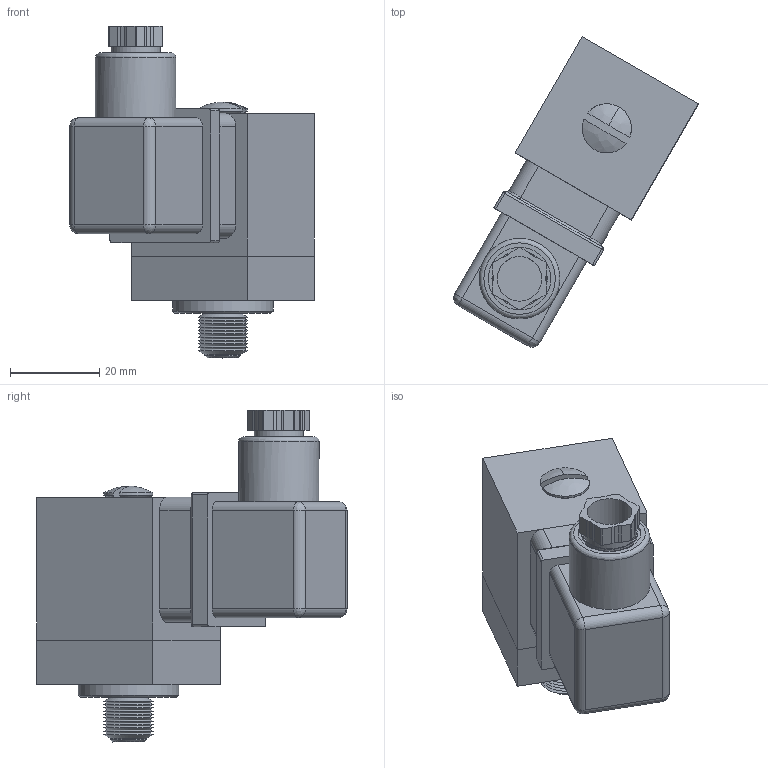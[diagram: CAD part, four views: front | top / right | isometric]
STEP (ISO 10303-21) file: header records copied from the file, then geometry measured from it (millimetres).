
FILE_DESCRIPTION(('STEP AP203'),'2;1');
FILE_NAME('OMTI-H.stp','2009-03-24T10:47:58',(''),(''),'2008.1.107','THINKDESIGN','');
FILE_SCHEMA(('CONFIG_CONTROL_DESIGN'));
Length unit declared in the file: millimetre
Bounding box: 54.78 x 69.42 x 74.3 mm (x, y, z)
Volume: 64886.6 mm3; surface area: 19216.4 mm2
Topology: 17 solids, 17 shells, 178 faces, 460 edges, 293 vertices
Faces by surface type: plane 82, cylinder 52, bspline 44
Full cylindrical faces by diameter (mm): 3.5 x1, 6 x1, 8 x12, 10 x1, 11 x1, 12 x1, 12.4 x1, 14 x1, 18 x1, 22.5 x1
Entity records: 7109 total; most frequent: CARTESIAN_POINT 2693, DIRECTION 902, ORIENTED_EDGE 902, EDGE_CURVE 451, AXIS2_PLACEMENT_3D 322, VERTEX_POINT 293, VECTOR 258, LINE 258
